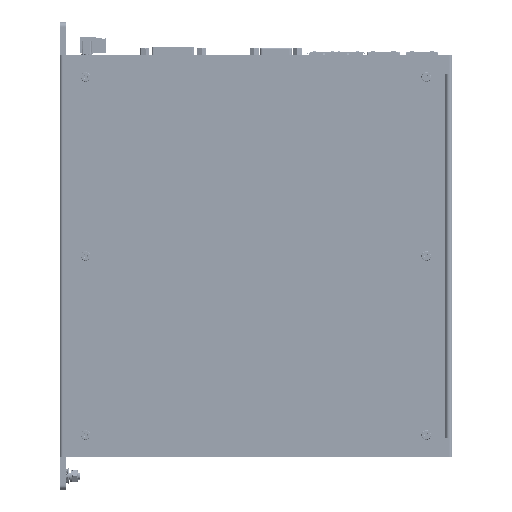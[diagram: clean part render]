
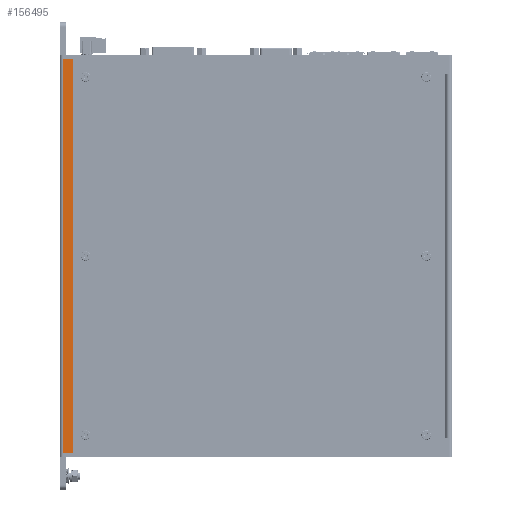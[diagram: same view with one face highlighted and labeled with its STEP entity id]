
A CAD part, front view. The second image highlights one B-rep face of the part: STEP entity #156495.
In plain terms, the highlighted planar face has unit normal (0, -1, 0) as drawn and (-1, 0, 0) by its records, which use the part's own axes.
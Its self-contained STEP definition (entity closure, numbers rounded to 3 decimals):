
#13625 = VERTEX_POINT ( 'NONE', #105656 ) ;
#20816 = EDGE_CURVE ( 'NONE', #173588, #115917, #138789, .T. ) ;
#20864 = CARTESIAN_POINT ( 'NONE',  ( -45., -113., -7.5 ) ) ;
#23935 = DIRECTION ( 'NONE',  ( 0., 0., 1. ) ) ;
#31247 = DIRECTION ( 'NONE',  ( 0., 1., 0. ) ) ;
#41518 = EDGE_CURVE ( 'NONE', #458823, #173588, #43256, .T. ) ;
#43256 = LINE ( 'NONE', #189119, #448734 ) ;
#49657 = ORIENTED_EDGE ( 'NONE', *, *, #88517, .T. ) ;
#68424 = PLANE ( 'NONE',  #158237 ) ;
#88517 = EDGE_CURVE ( 'NONE', #458823, #13625, #334451, .T. ) ;
#99769 = DIRECTION ( 'NONE',  ( 0., 0., 1. ) ) ;
#102763 = EDGE_CURVE ( 'NONE', #115917, #13625, #310108, .T. ) ;
#105656 = CARTESIAN_POINT ( 'NONE',  ( -45., -113., -2. ) ) ;
#115917 = VERTEX_POINT ( 'NONE', #335996 ) ;
#116389 = EDGE_LOOP ( 'NONE', ( #283609, #409671, #49657, #509381 ) ) ;
#131380 = VECTOR ( 'NONE', #99769, 1000. ) ;
#138789 = LINE ( 'NONE', #339520, #482794 ) ;
#156495 = ADVANCED_FACE ( 'NONE', ( #164216 ), #68424, .T. ) ;
#158237 = AXIS2_PLACEMENT_3D ( 'NONE', #379289, #344949, #23935 ) ;
#162319 = VECTOR ( 'NONE', #278824, 1000. ) ;
#164216 = FACE_OUTER_BOUND ( 'NONE', #116389, .T. ) ;
#173588 = VERTEX_POINT ( 'NONE', #384431 ) ;
#189119 = CARTESIAN_POINT ( 'NONE',  ( -45., -113., -7.5 ) ) ;
#262059 = DIRECTION ( 'NONE',  ( 0., 0., 1. ) ) ;
#278824 = DIRECTION ( 'NONE',  ( 0., -1., 0. ) ) ;
#282271 = CARTESIAN_POINT ( 'NONE',  ( -45., -113., -7.5 ) ) ;
#283609 = ORIENTED_EDGE ( 'NONE', *, *, #20816, .F. ) ;
#283901 = CARTESIAN_POINT ( 'NONE',  ( -45., 113., -2. ) ) ;
#310108 = LINE ( 'NONE', #283901, #162319 ) ;
#334451 = LINE ( 'NONE', #20864, #131380 ) ;
#335996 = CARTESIAN_POINT ( 'NONE',  ( -45., 113., -2. ) ) ;
#339520 = CARTESIAN_POINT ( 'NONE',  ( -45., 113., -7.5 ) ) ;
#344949 = DIRECTION ( 'NONE',  ( -1., 0., 0. ) ) ;
#379289 = CARTESIAN_POINT ( 'NONE',  ( -45., -113., -19. ) ) ;
#384431 = CARTESIAN_POINT ( 'NONE',  ( -45., 113., -7.5 ) ) ;
#409671 = ORIENTED_EDGE ( 'NONE', *, *, #41518, .F. ) ;
#448734 = VECTOR ( 'NONE', #31247, 1000. ) ;
#458823 = VERTEX_POINT ( 'NONE', #282271 ) ;
#482794 = VECTOR ( 'NONE', #262059, 1000. ) ;
#509381 = ORIENTED_EDGE ( 'NONE', *, *, #102763, .F. ) ;
